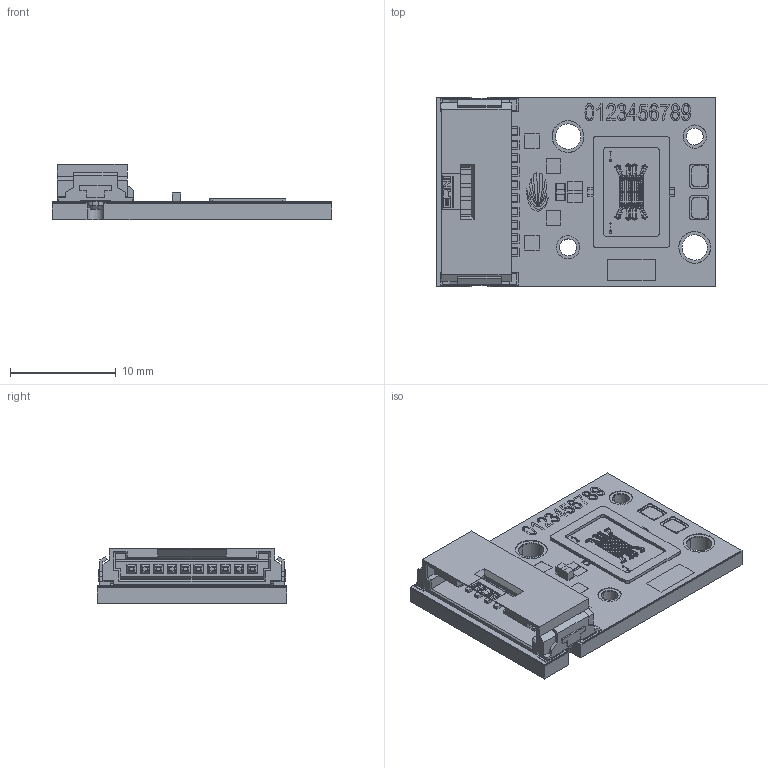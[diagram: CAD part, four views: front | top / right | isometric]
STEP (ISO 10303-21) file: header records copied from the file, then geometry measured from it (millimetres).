
FILE_DESCRIPTION(/* description */ (''),/* implementation_level */ '2;1');
FILE_NAME(/* name */ 'STE7402',/* time_stamp */ '2025-01-14T14:40:58+08:00',/* author */ (''),/* organization */ (''),/* preprocessor_version */ 'ST-DEVELOPER v16.5',/* originating_system */ '',/* authorisation */ '');
FILE_SCHEMA (('CONFIG_CONTROL_DESIGN'));
Length unit declared in the file: millimetre
Products named in the file (2): Document; 图块 01
Assembly tree (1 placements, depth 2):
  Document
    图块 01
Bounding box: 26.5 x 18 x 5.23 mm (x, y, z)
Volume: 1045.6 mm3; surface area: 1805.4 mm2
Topology: 28 solids, 28 shells, 1984 faces, 4770 edges, 3088 vertices
Faces by surface type: plane 962, cylinder 610, bspline 412
Entity records: 77774 total; most frequent: CARTESIAN_POINT 38393, ORIENTED_EDGE 9540, EDGE_CURVE 4770, VERTEX_POINT 3088, B_SPLINE_CURVE_WITH_KNOTS 2983, EDGE_LOOP 2288, ADVANCED_FACE 1984, FACE_OUTER_BOUND 1984
